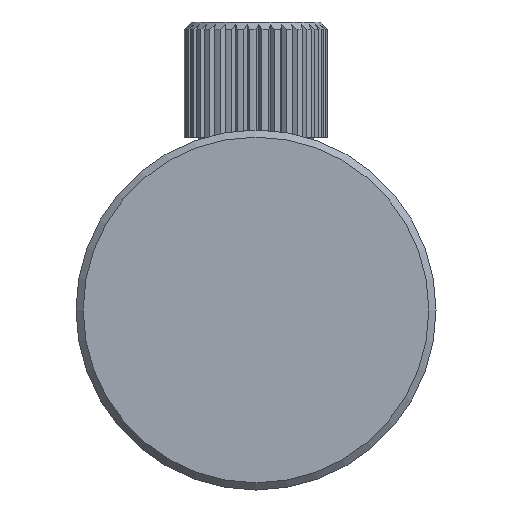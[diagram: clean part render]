
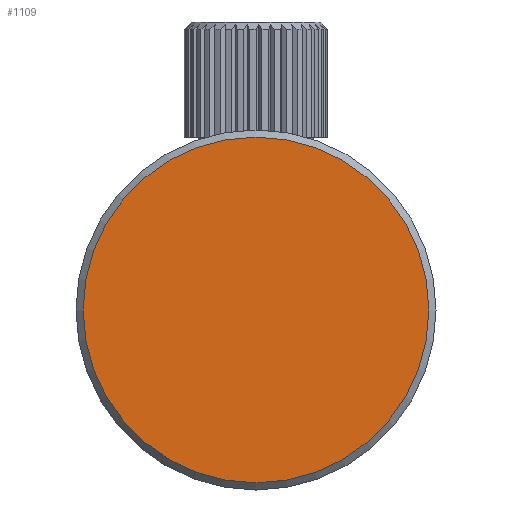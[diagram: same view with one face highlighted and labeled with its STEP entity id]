
A CAD part, front view. The second image highlights one B-rep face of the part: STEP entity #1109.
In plain terms, the highlighted planar face has unit normal (0, -1, 0).
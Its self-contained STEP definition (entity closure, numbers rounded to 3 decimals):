
#722 = EDGE_CURVE ( 'NONE', #2552, #2552, #3757, .T. ) ;
#976 = EDGE_LOOP ( 'NONE', ( #1545 ) ) ;
#1109 = ADVANCED_FACE ( 'NONE', ( #3629 ), #3955, .F. ) ;
#1360 = AXIS2_PLACEMENT_3D ( 'NONE', #1868, #1864, #1867 ) ;
#1380 = AXIS2_PLACEMENT_3D ( 'NONE', #3954, #3958, #3959 ) ;
#1545 = ORIENTED_EDGE ( 'NONE', *, *, #722, .T. ) ;
#1864 = DIRECTION ( 'NONE',  ( 0., -1., 0. ) ) ;
#1867 = DIRECTION ( 'NONE',  ( 0., 0., 1. ) ) ;
#1868 = CARTESIAN_POINT ( 'NONE',  ( -7.907, -10.949, 0. ) ) ;
#2552 = VERTEX_POINT ( 'NONE', #3235 ) ;
#3235 = CARTESIAN_POINT ( 'NONE',  ( -7.907, -10.949, 12. ) ) ;
#3629 = FACE_OUTER_BOUND ( 'NONE', #976, .T. ) ;
#3757 = CIRCLE ( 'NONE', #1360, 12. ) ;
#3954 = CARTESIAN_POINT ( 'NONE',  ( -7.907, -10.949, 0. ) ) ;
#3955 = PLANE ( 'NONE',  #1380 ) ;
#3958 = DIRECTION ( 'NONE',  ( 0., 1., 0. ) ) ;
#3959 = DIRECTION ( 'NONE',  ( 0., 0., 1. ) ) ;
